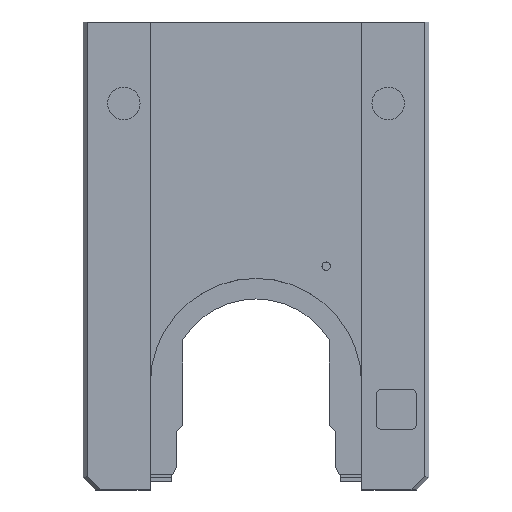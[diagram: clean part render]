
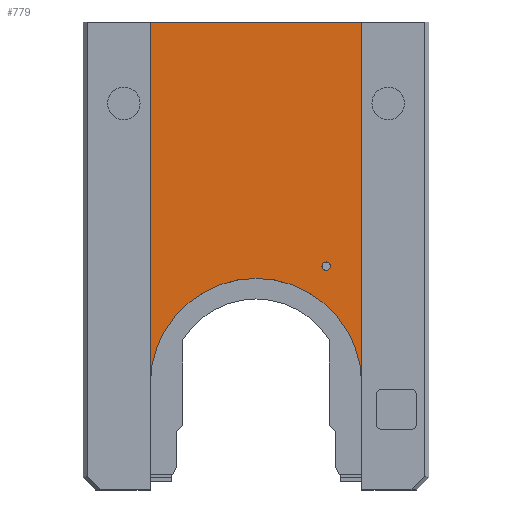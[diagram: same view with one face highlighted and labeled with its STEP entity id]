
A CAD part, top view. The second image highlights one B-rep face of the part: STEP entity #779.
In plain terms, the highlighted planar face has unit normal (0, 0, 1).
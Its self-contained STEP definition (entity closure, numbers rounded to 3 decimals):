
#673=FACE_BOUND('',#1034,.T.);
#674=FACE_BOUND('',#1035,.T.);
#779=ADVANCED_FACE('',(#673,#674),#854,.T.);
#854=PLANE('',#2512);
#1034=EDGE_LOOP('',(#1556));
#1035=EDGE_LOOP('',(#1557,#1558,#1559,#1560));
#1069=CIRCLE('',#2505,1.033);
#1070=CIRCLE('',#2509,26.);
#1556=ORIENTED_EDGE('',*,*,#1958,.T.);
#1557=ORIENTED_EDGE('',*,*,#1960,.T.);
#1558=ORIENTED_EDGE('',*,*,#1963,.F.);
#1559=ORIENTED_EDGE('',*,*,#1965,.F.);
#1560=ORIENTED_EDGE('',*,*,#1966,.T.);
#1717=VERTEX_POINT('',#3453);
#1718=VERTEX_POINT('',#3456);
#1719=VERTEX_POINT('',#3458);
#1720=VERTEX_POINT('',#3462);
#1721=VERTEX_POINT('',#3466);
#1958=EDGE_CURVE('',#1717,#1717,#1069,.T.);
#1960=EDGE_CURVE('',#1719,#1718,#2171,.T.);
#1963=EDGE_CURVE('',#1720,#1718,#2174,.T.);
#1965=EDGE_CURVE('',#1721,#1720,#1070,.T.);
#1966=EDGE_CURVE('',#1721,#1719,#2176,.T.);
#2171=LINE('',#3457,#2381);
#2174=LINE('',#3463,#2384);
#2176=LINE('',#3469,#2386);
#2381=VECTOR('',#2957,1.);
#2384=VECTOR('',#2962,1.);
#2386=VECTOR('',#2970,1.);
#2505=AXIS2_PLACEMENT_3D('',#3452,#2952,#2953);
#2509=AXIS2_PLACEMENT_3D('',#3467,#2966,#2967);
#2512=AXIS2_PLACEMENT_3D('',#3471,#2973,#2974);
#2952=DIRECTION('',(0.,0.,-1.));
#2953=DIRECTION('',(-1.,0.,0.));
#2957=DIRECTION('',(-1.,0.,0.));
#2962=DIRECTION('',(0.,1.,0.));
#2966=DIRECTION('',(0.,0.,1.));
#2967=DIRECTION('',(0.,-1.,0.));
#2970=DIRECTION('',(0.,1.,0.));
#2973=DIRECTION('',(0.,0.,1.));
#2974=DIRECTION('',(0.,-1.,0.));
#3452=CARTESIAN_POINT('',(17.25,29.2,3.74));
#3453=CARTESIAN_POINT('',(16.217,29.2,3.74));
#3456=CARTESIAN_POINT('',(-26.,89.2,3.74));
#3457=CARTESIAN_POINT('',(26.,89.2,3.74));
#3458=CARTESIAN_POINT('',(26.,89.2,3.74));
#3462=CARTESIAN_POINT('',(-26.,0.2,3.74));
#3463=CARTESIAN_POINT('',(-26.,-35.8,3.74));
#3466=CARTESIAN_POINT('',(26.,0.2,3.74));
#3467=CARTESIAN_POINT('',(0.,0.2,3.74));
#3469=CARTESIAN_POINT('',(26.,-35.8,3.74));
#3471=CARTESIAN_POINT('',(0.,0.2,3.74));
